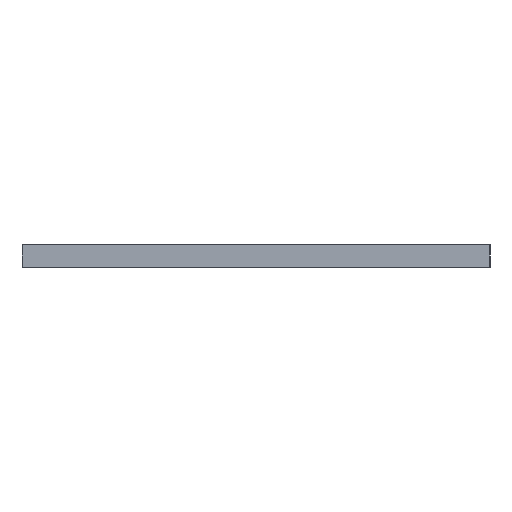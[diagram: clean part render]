
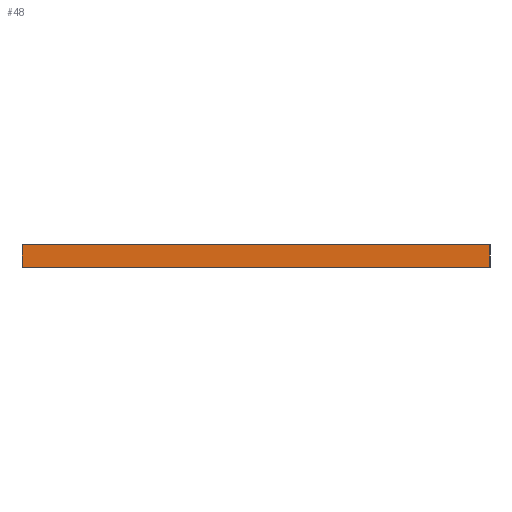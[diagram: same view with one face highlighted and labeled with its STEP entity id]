
A CAD part, left-side view. The second image highlights one B-rep face of the part: STEP entity #48.
In plain terms, the highlighted planar face has unit normal (-1, 0, 0).
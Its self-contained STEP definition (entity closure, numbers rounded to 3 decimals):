
#48=ADVANCED_FACE('',(#66),#522,.T.);
#66=FACE_OUTER_BOUND('',#84,.T.);
#84=EDGE_LOOP('',(#108,#109,#110,#111));
#108=ORIENTED_EDGE('',*,*,#357,.F.);
#109=ORIENTED_EDGE('',*,*,#359,.T.);
#110=ORIENTED_EDGE('',*,*,#360,.T.);
#111=ORIENTED_EDGE('',*,*,#361,.T.);
#178=PCURVE('',#521,#250);
#180=PCURVE('',#522,#252);
#181=PCURVE('',#522,#253);
#182=PCURVE('',#522,#254);
#183=PCURVE('',#522,#255);
#184=PCURVE('',#523,#256);
#190=PCURVE('',#524,#262);
#193=PCURVE('',#525,#265);
#250=DEFINITIONAL_REPRESENTATION('',(#400),#859);
#252=DEFINITIONAL_REPRESENTATION('',(#403),#859);
#253=DEFINITIONAL_REPRESENTATION('',(#405),#859);
#254=DEFINITIONAL_REPRESENTATION('',(#407),#859);
#255=DEFINITIONAL_REPRESENTATION('',(#409),#859);
#256=DEFINITIONAL_REPRESENTATION('',(#410),#859);
#262=DEFINITIONAL_REPRESENTATION('',(#418),#859);
#265=DEFINITIONAL_REPRESENTATION('',(#421),#859);
#321=SURFACE_CURVE('',#399,(#178,#180),.PCURVE_S1.);
#323=SURFACE_CURVE('',#404,(#181,#193),.PCURVE_S1.);
#324=SURFACE_CURVE('',#406,(#182,#184),.PCURVE_S1.);
#325=SURFACE_CURVE('',#408,(#183,#190),.PCURVE_S1.);
#357=EDGE_CURVE('',#501,#500,#321,.T.);
#359=EDGE_CURVE('',#501,#503,#323,.T.);
#360=EDGE_CURVE('',#503,#502,#324,.T.);
#361=EDGE_CURVE('',#502,#500,#325,.T.);
#399=B_SPLINE_CURVE_WITH_KNOTS('',1,(#636,#637),.UNSPECIFIED.,.F.,.F.,(2,
2),(-400.,0.),.UNSPECIFIED.);
#400=B_SPLINE_CURVE_WITH_KNOTS('',1,(#638,#639),.UNSPECIFIED.,.F.,.F.,(2,
2),(-400.,0.),.UNSPECIFIED.);
#403=B_SPLINE_CURVE_WITH_KNOTS('',1,(#644,#645),.UNSPECIFIED.,.F.,.F.,(2,
2),(-400.,0.),.UNSPECIFIED.);
#404=B_SPLINE_CURVE_WITH_KNOTS('',1,(#646,#647),.UNSPECIFIED.,.F.,.F.,(2,
2),(-100.,-50.),.UNSPECIFIED.);
#405=B_SPLINE_CURVE_WITH_KNOTS('',1,(#648,#649),.UNSPECIFIED.,.F.,.F.,(2,
2),(-100.,-50.),.UNSPECIFIED.);
#406=B_SPLINE_CURVE_WITH_KNOTS('',1,(#650,#651),.UNSPECIFIED.,.F.,.F.,(2,
2),(-400.,0.),.UNSPECIFIED.);
#407=B_SPLINE_CURVE_WITH_KNOTS('',1,(#652,#653),.UNSPECIFIED.,.F.,.F.,(2,
2),(-400.,0.),.UNSPECIFIED.);
#408=B_SPLINE_CURVE_WITH_KNOTS('',1,(#654,#655),.UNSPECIFIED.,.F.,.F.,(2,
2),(50.,100.),.UNSPECIFIED.);
#409=B_SPLINE_CURVE_WITH_KNOTS('',1,(#656,#657),.UNSPECIFIED.,.F.,.F.,(2,
2),(50.,100.),.UNSPECIFIED.);
#410=B_SPLINE_CURVE_WITH_KNOTS('',1,(#658,#659),.UNSPECIFIED.,.F.,.F.,(2,
2),(-400.,0.),.UNSPECIFIED.);
#418=B_SPLINE_CURVE_WITH_KNOTS('',1,(#674,#675),.UNSPECIFIED.,.F.,.F.,(2,
2),(50.,100.),.UNSPECIFIED.);
#421=B_SPLINE_CURVE_WITH_KNOTS('',1,(#680,#681),.UNSPECIFIED.,.F.,.F.,(2,
2),(-100.,-50.),.UNSPECIFIED.);
#500=VERTEX_POINT('',#610);
#501=VERTEX_POINT('',#611);
#502=VERTEX_POINT('',#612);
#503=VERTEX_POINT('',#613);
#521=PLANE('',#559);
#522=PLANE('',#560);
#523=PLANE('',#561);
#524=PLANE('',#562);
#525=PLANE('',#563);
#559=AXIS2_PLACEMENT_3D('',#601,#580,$);
#560=AXIS2_PLACEMENT_3D('',#602,#581,$);
#561=AXIS2_PLACEMENT_3D('',#603,#582,$);
#562=AXIS2_PLACEMENT_3D('',#604,#583,$);
#563=AXIS2_PLACEMENT_3D('',#605,#584,$);
#580=DIRECTION('',(0.,0.,1.));
#581=DIRECTION('',(-1.,0.,0.));
#582=DIRECTION('',(0.,0.,-1.));
#583=DIRECTION('',(0.,-1.,0.));
#584=DIRECTION('',(0.,1.,0.));
#601=CARTESIAN_POINT('',(-762.,-565.,180.));
#602=CARTESIAN_POINT('',(-782.,-565.,180.));
#603=CARTESIAN_POINT('',(-782.,-565.,140.));
#604=CARTESIAN_POINT('',(-782.,-565.,140.));
#605=CARTESIAN_POINT('',(-782.,265.,140.));
#610=CARTESIAN_POINT('',(-782.,-565.,180.));
#611=CARTESIAN_POINT('',(-782.,265.,180.));
#612=CARTESIAN_POINT('',(-782.,-565.,140.));
#613=CARTESIAN_POINT('',(-782.,265.,140.));
#636=CARTESIAN_POINT('',(-782.,265.,180.));
#637=CARTESIAN_POINT('',(-782.,-565.,180.));
#638=CARTESIAN_POINT('',(400.,-100.));
#639=CARTESIAN_POINT('',(0.,-100.));
#644=CARTESIAN_POINT('',(400.,-100.));
#645=CARTESIAN_POINT('',(0.,-100.));
#646=CARTESIAN_POINT('',(-782.,265.,180.));
#647=CARTESIAN_POINT('',(-782.,265.,140.));
#648=CARTESIAN_POINT('',(400.,-100.));
#649=CARTESIAN_POINT('',(400.,-50.));
#650=CARTESIAN_POINT('',(-782.,265.,140.));
#651=CARTESIAN_POINT('',(-782.,-565.,140.));
#652=CARTESIAN_POINT('',(400.,-50.));
#653=CARTESIAN_POINT('',(0.,-50.));
#654=CARTESIAN_POINT('',(-782.,-565.,140.));
#655=CARTESIAN_POINT('',(-782.,-565.,180.));
#656=CARTESIAN_POINT('',(0.,-50.));
#657=CARTESIAN_POINT('',(0.,-100.));
#658=CARTESIAN_POINT('',(400.,-50.));
#659=CARTESIAN_POINT('',(0.,-50.));
#674=CARTESIAN_POINT('',(-40.,0.));
#675=CARTESIAN_POINT('',(-40.,40.));
#680=CARTESIAN_POINT('',(40.,-40.));
#681=CARTESIAN_POINT('',(0.,-40.));
#859=(
GEOMETRIC_REPRESENTATION_CONTEXT(2)
PARAMETRIC_REPRESENTATION_CONTEXT()
REPRESENTATION_CONTEXT('pspace','')
);
